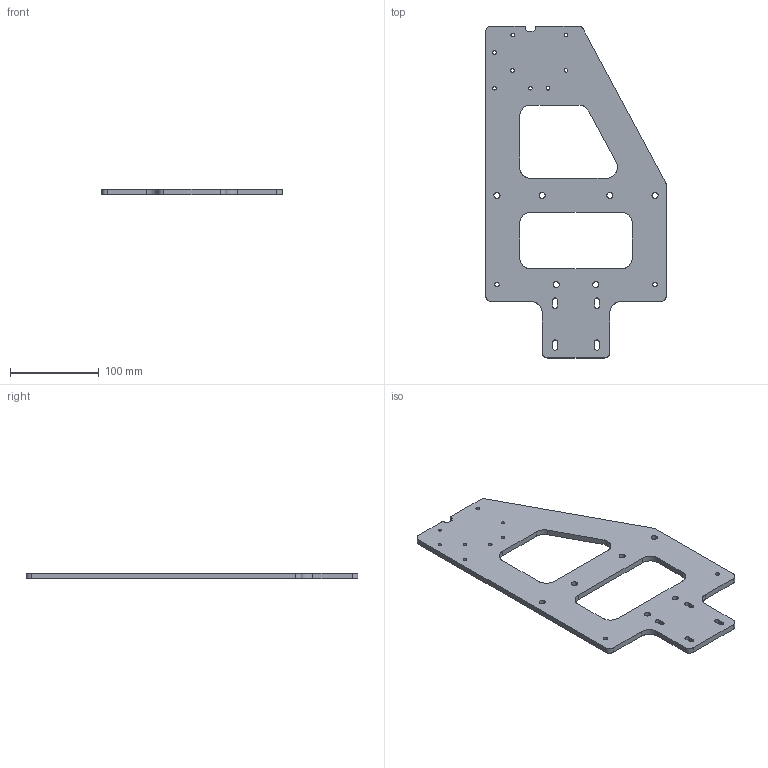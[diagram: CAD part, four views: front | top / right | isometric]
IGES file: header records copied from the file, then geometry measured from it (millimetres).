
Start section: SolidWorks IGES file using analytic representation for surfaces
Global section: file name: C:\Users\Public\Documents\Plasma and CNC\CNC Router\Exports for OpenBuilds\Side Plate.IGS; native system: SolidWorks 2010; preprocessor: SolidWorks 2010; author: Neil; date: 140127.163216; units: inch
Bounding box: 203.2 x 373.38 x 6.35 mm (x, y, z)
Surface area: 99651.8 mm2 (no closed solid volume)
Topology: 0 solids, 0 shells, 92 faces, 1650 edges, 1650 vertices
Faces by surface type: revolution 59, bspline 33
